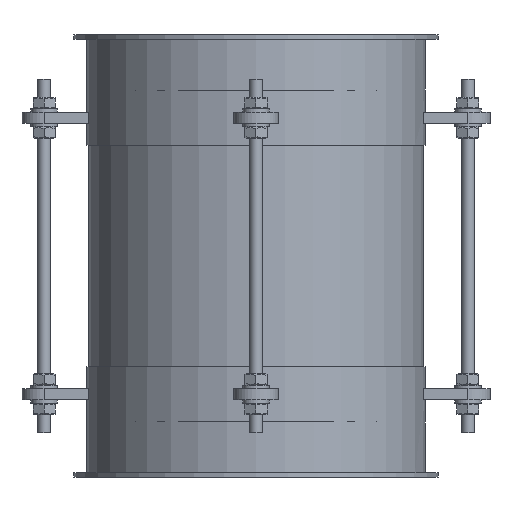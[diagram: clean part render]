
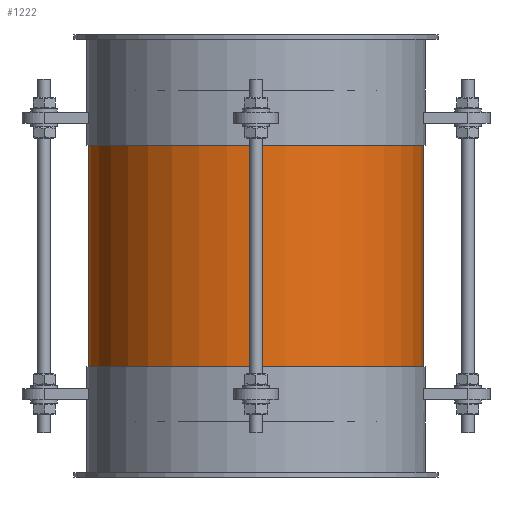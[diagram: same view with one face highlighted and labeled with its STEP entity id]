
A CAD part, front view. The second image highlights one B-rep face of the part: STEP entity #1222.
In plain terms, the highlighted cylindrical face has radius 75.75 mm (diameter 151.5 mm), a full revolution.
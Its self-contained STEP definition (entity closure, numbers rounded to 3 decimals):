
#1195=CARTESIAN_POINT('',(0.0,0.0,0.0));
#1196=DIRECTION('',(0.0,0.0,1.0));
#1197=DIRECTION('',(-1.0,0.0,0.0));
#1198=AXIS2_PLACEMENT_3D('',#1195,#1196,#1197);
#1199=CYLINDRICAL_SURFACE('',#1198,75.75);
#1200=CARTESIAN_POINT('',(75.75,0.,150.0));
#1201=VERTEX_POINT('',#1200);
#1202=CARTESIAN_POINT('',(0.0,0.0,150.0));
#1203=DIRECTION('',(0.0,0.0,-1.0));
#1204=DIRECTION('',(-1.0,0.0,0.0));
#1205=AXIS2_PLACEMENT_3D('',#1202,#1203,#1204);
#1206=CIRCLE('',#1205,75.75);
#1207=EDGE_CURVE('',#1201,#1201,#1206,.T.);
#1208=ORIENTED_EDGE('',*,*,#1207,.T.);
#1209=EDGE_LOOP('',(#1208));
#1210=FACE_OUTER_BOUND('',#1209,.T.);
#1211=CARTESIAN_POINT('',(75.75,0.,0.0));
#1212=VERTEX_POINT('',#1211);
#1213=CARTESIAN_POINT('',(0.0,0.0,0.0));
#1214=DIRECTION('',(0.0,0.0,-1.0));
#1215=DIRECTION('',(-1.0,0.0,0.0));
#1216=AXIS2_PLACEMENT_3D('',#1213,#1214,#1215);
#1217=CIRCLE('',#1216,75.75);
#1218=EDGE_CURVE('',#1212,#1212,#1217,.T.);
#1219=ORIENTED_EDGE('',*,*,#1218,.F.);
#1220=EDGE_LOOP('',(#1219));
#1221=FACE_BOUND('',#1220,.T.);
#1222=ADVANCED_FACE('',(#1210,#1221),#1199,.T.);
